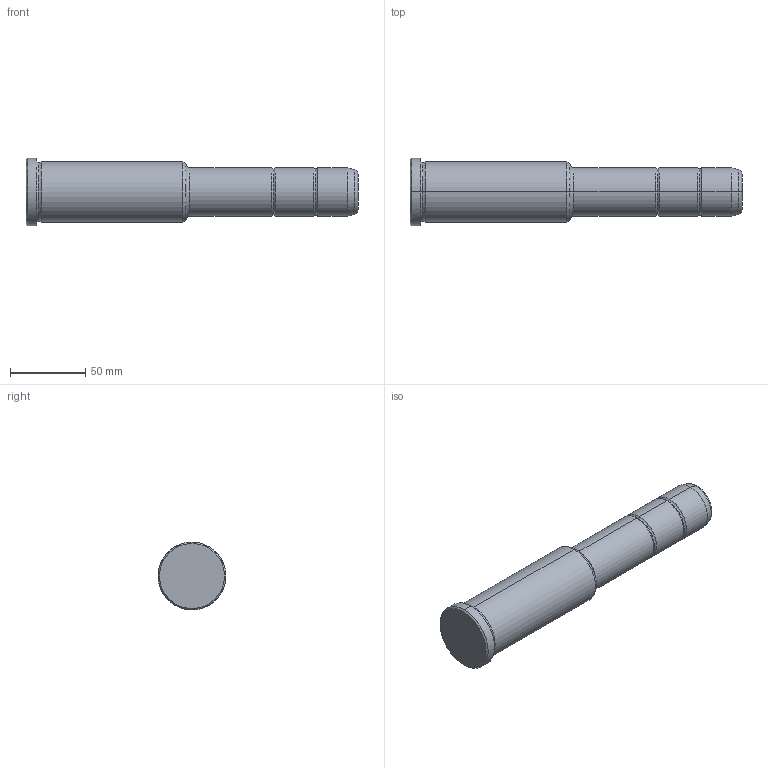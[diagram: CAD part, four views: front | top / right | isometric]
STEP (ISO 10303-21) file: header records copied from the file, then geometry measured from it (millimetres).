
FILE_DESCRIPTION(('CATIA V5 STEP Exchange'),'2;1');
FILE_NAME('C:\Users\Utente\Desktop\IO LAVORO\3D X SITO CF\X SITO\PLASTICA\351\351-32X106X220.stp','2021-09-15T11:46:58+00:00',('none'),('none'),'CATIA Version 5 Release 20 GA (IN-10)','CATIA V5 STEP AP203','none');
FILE_SCHEMA(('CONFIG_CONTROL_DESIGN'));
Length unit declared in the file: millimetre
Products named in the file (1): 351-32X106X220
Bounding box: 220 x 45 x 45 mm (x, y, z)
Volume: 226019.1 mm3; surface area: 27642.4 mm2
Topology: 1 solids, 1 shells, 36 faces, 102 edges, 70 vertices
Faces by surface type: torus 16, cylinder 10, cone 6, plane 4
Entity records: 1292 total; most frequent: CARTESIAN_POINT 321, ORIENTED_EDGE 204, DIRECTION 166, AXIS2_PLACEMENT_3D 115, EDGE_CURVE 102, CIRCLE 78, VERTEX_POINT 70, EDGE_LOOP 38
